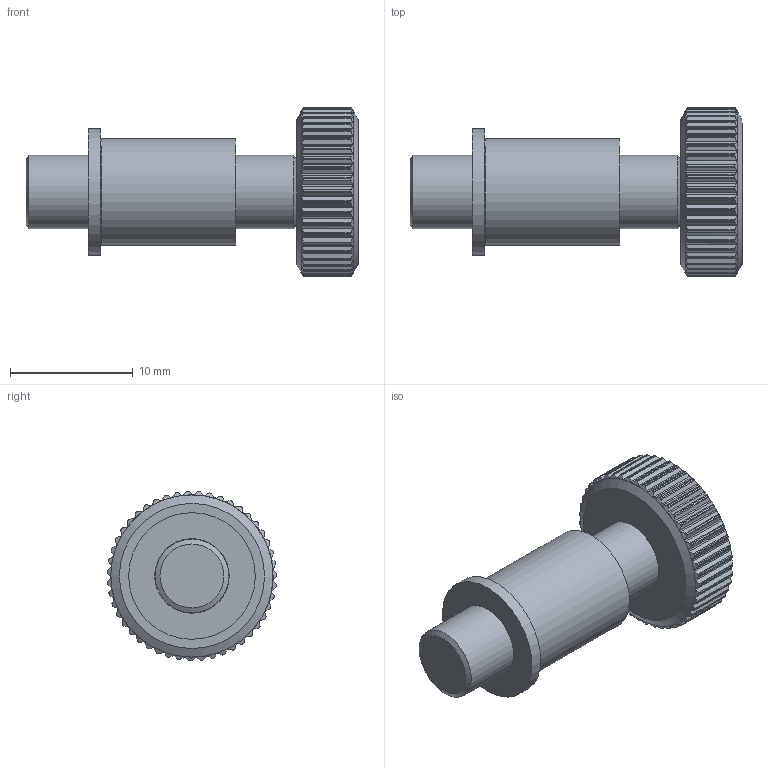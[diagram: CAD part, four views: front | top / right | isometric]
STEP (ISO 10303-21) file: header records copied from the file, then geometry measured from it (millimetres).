
FILE_DESCRIPTION(/* description */ (''),/* implementation_level */ '2;1');
FILE_NAME(/* name */ 'U:\KONSTRUKTORIAI\DOKUMENTACIJA\9\9S127B\step\9S127B-10.stp',/* time_stamp */ '2017-02-10T14:44:08+02:00',/* author */ ('dsgn33'),/* organization */ (''),/* preprocessor_version */ 'ST-DEVELOPER v15.2',/* originating_system */ 'Autodesk Inventor 2014',/* authorisation */ '');
FILE_SCHEMA (('AUTOMOTIVE_DESIGN { 1 0 10303 214 3 1 1 }'));
Length unit declared in the file: millimetre
Products named in the file (2): Part6; Assembly3
Bounding box: 27 x 13.79 x 13.79 mm (x, y, z)
Volume: 1618.9 mm3; surface area: 1302.1 mm2
Topology: 1 solids, 2 shells, 441 faces, 1255 edges, 832 vertices
Faces by surface type: cylinder 198, plane 159, bspline 71, cone 12, torus 1
Full cylindrical faces by diameter (mm): 1.5 x1, 2 x1, 3 x1, 3.1 x1, 6 x2, 8.7 x1, 10.3 x1, 13.2 x2
Entity records: 15432 total; most frequent: CARTESIAN_POINT 5585, ORIENTED_EDGE 2444, DIRECTION 1478, EDGE_CURVE 1222, VERTEX_POINT 822, AXIS2_PLACEMENT_3D 501, EDGE_LOOP 478, LINE 476
